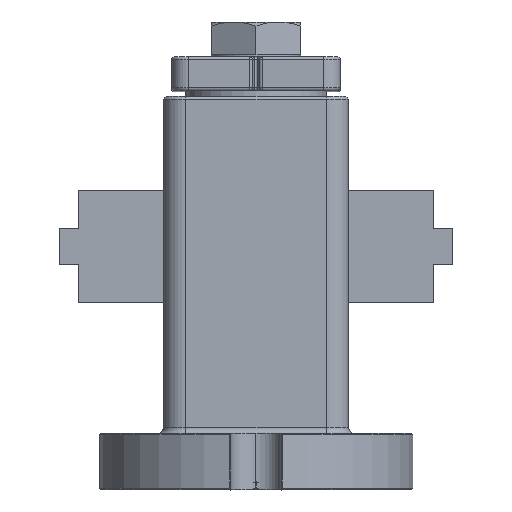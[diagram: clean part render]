
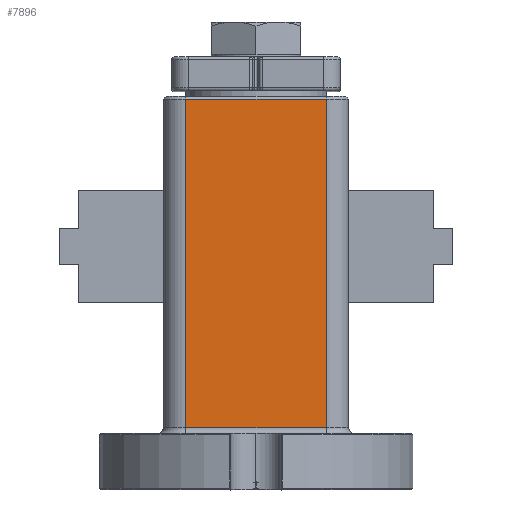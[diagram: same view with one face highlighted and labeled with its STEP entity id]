
A CAD part, top view. The second image highlights one B-rep face of the part: STEP entity #7896.
In plain terms, the highlighted planar face has unit normal (0, 0, 1).
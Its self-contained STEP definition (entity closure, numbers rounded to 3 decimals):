
#252 = VERTEX_POINT ( 'NONE', #4993 ) ;
#921 = DIRECTION ( 'NONE',  ( -1., 0., 0. ) ) ;
#939 = EDGE_LOOP ( 'NONE', ( #5919, #3930, #1439, #8012 ) ) ;
#952 = DIRECTION ( 'NONE',  ( 0., 0., -1. ) ) ;
#964 = AXIS2_PLACEMENT_3D ( 'NONE', #1393, #952, #921 ) ;
#971 = VECTOR ( 'NONE', #4098, 1000. ) ;
#1326 = CARTESIAN_POINT ( 'NONE',  ( 12.5, 70., 16.5 ) ) ;
#1354 = DIRECTION ( 'NONE',  ( 0., -1., 0. ) ) ;
#1393 = CARTESIAN_POINT ( 'NONE',  ( -12.5, 70., 16.5 ) ) ;
#1439 = ORIENTED_EDGE ( 'NONE', *, *, #6830, .F. ) ;
#1911 = LINE ( 'NONE', #2695, #7745 ) ;
#2187 = LINE ( 'NONE', #1326, #9375 ) ;
#2695 = CARTESIAN_POINT ( 'NONE',  ( -12.5, 70., 16.5 ) ) ;
#2872 = LINE ( 'NONE', #8297, #9341 ) ;
#3930 = ORIENTED_EDGE ( 'NONE', *, *, #9024, .T. ) ;
#4098 = DIRECTION ( 'NONE',  ( -1., 0., 0. ) ) ;
#4450 = LINE ( 'NONE', #8734, #971 ) ;
#4993 = CARTESIAN_POINT ( 'NONE',  ( -12.5, 69.5, 16.5 ) ) ;
#5375 = CARTESIAN_POINT ( 'NONE',  ( -12.5, 11., 16.5 ) ) ;
#5556 = VERTEX_POINT ( 'NONE', #5375 ) ;
#5919 = ORIENTED_EDGE ( 'NONE', *, *, #8643, .T. ) ;
#5981 = PLANE ( 'NONE',  #964 ) ;
#6209 = CARTESIAN_POINT ( 'NONE',  ( 12.5, 69.5, 16.5 ) ) ;
#6830 = EDGE_CURVE ( 'NONE', #8332, #7761, #2187, .T. ) ;
#7284 = CARTESIAN_POINT ( 'NONE',  ( 12.5, 11., 16.5 ) ) ;
#7649 = FACE_OUTER_BOUND ( 'NONE', #939, .T. ) ;
#7745 = VECTOR ( 'NONE', #8078, 1000. ) ;
#7761 = VERTEX_POINT ( 'NONE', #7284 ) ;
#7896 = ADVANCED_FACE ( 'NONE', ( #7649 ), #5981, .F. ) ;
#8012 = ORIENTED_EDGE ( 'NONE', *, *, #8099, .T. ) ;
#8078 = DIRECTION ( 'NONE',  ( 0., -1., 0. ) ) ;
#8099 = EDGE_CURVE ( 'NONE', #8332, #252, #4450, .T. ) ;
#8297 = CARTESIAN_POINT ( 'NONE',  ( -12.5, 11., 16.5 ) ) ;
#8332 = VERTEX_POINT ( 'NONE', #6209 ) ;
#8643 = EDGE_CURVE ( 'NONE', #252, #5556, #1911, .T. ) ;
#8734 = CARTESIAN_POINT ( 'NONE',  ( -12.5, 69.5, 16.5 ) ) ;
#9024 = EDGE_CURVE ( 'NONE', #5556, #7761, #2872, .T. ) ;
#9025 = DIRECTION ( 'NONE',  ( 1., 0., 0. ) ) ;
#9341 = VECTOR ( 'NONE', #9025, 1000. ) ;
#9375 = VECTOR ( 'NONE', #1354, 1000. ) ;
